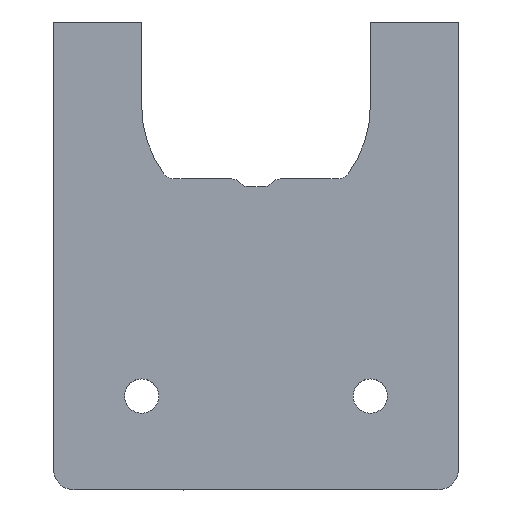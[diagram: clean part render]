
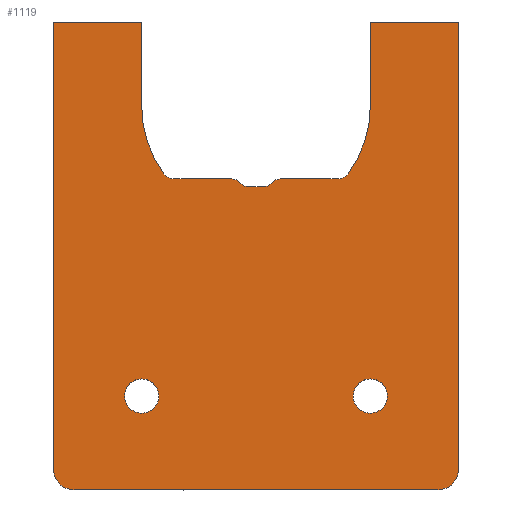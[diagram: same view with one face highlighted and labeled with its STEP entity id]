
A CAD part, top view. The second image highlights one B-rep face of the part: STEP entity #1119.
In plain terms, the highlighted planar face has unit normal (0, 0, 1).
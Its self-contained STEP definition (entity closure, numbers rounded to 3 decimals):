
#53=FACE_BOUND('',#186,.T.);
#54=FACE_BOUND('',#187,.T.);
#71=PLANE('',#1234);
#118=FACE_OUTER_BOUND('',#185,.T.);
#185=EDGE_LOOP('',(#897,#898,#899,#900,#901,#902,#903,#904,#905,#906,#907,
#908,#909,#910,#911,#912,#913,#914,#915,#916));
#186=EDGE_LOOP('',(#917));
#187=EDGE_LOOP('',(#918));
#242=LINE('',#1708,#335);
#249=LINE('',#1723,#342);
#252=LINE('',#1735,#345);
#273=LINE('',#1794,#366);
#278=LINE('',#1807,#371);
#282=LINE('',#1819,#375);
#286=LINE('',#1831,#379);
#290=LINE('',#1843,#383);
#291=LINE('',#1845,#384);
#292=LINE('',#1846,#385);
#335=VECTOR('',#1349,10.);
#342=VECTOR('',#1362,10.);
#345=VECTOR('',#1375,10.);
#366=VECTOR('',#1440,10.);
#371=VECTOR('',#1455,10.);
#375=VECTOR('',#1469,10.);
#379=VECTOR('',#1483,10.);
#383=VECTOR('',#1497,10.);
#384=VECTOR('',#1500,10.);
#385=VECTOR('',#1501,10.);
#408=CIRCLE('',#1169,2.);
#425=CIRCLE('',#1190,2.);
#434=CIRCLE('',#1215,11.);
#435=CIRCLE('',#1217,1.2);
#436=CIRCLE('',#1220,1.);
#437=CIRCLE('',#1222,1.);
#438=CIRCLE('',#1225,1.);
#439=CIRCLE('',#1227,1.);
#440=CIRCLE('',#1230,1.2);
#441=CIRCLE('',#1232,11.);
#442=CIRCLE('',#1235,1.65);
#443=CIRCLE('',#1236,1.65);
#466=VERTEX_POINT('',#1640);
#467=VERTEX_POINT('',#1641);
#498=VERTEX_POINT('',#1707);
#503=VERTEX_POINT('',#1721);
#506=VERTEX_POINT('',#1729);
#507=VERTEX_POINT('',#1733);
#522=VERTEX_POINT('',#1791);
#523=VERTEX_POINT('',#1793);
#524=VERTEX_POINT('',#1797);
#525=VERTEX_POINT('',#1801);
#526=VERTEX_POINT('',#1805);
#527=VERTEX_POINT('',#1809);
#528=VERTEX_POINT('',#1813);
#529=VERTEX_POINT('',#1817);
#530=VERTEX_POINT('',#1821);
#531=VERTEX_POINT('',#1825);
#532=VERTEX_POINT('',#1829);
#533=VERTEX_POINT('',#1833);
#534=VERTEX_POINT('',#1837);
#535=VERTEX_POINT('',#1841);
#536=VERTEX_POINT('',#1847);
#537=VERTEX_POINT('',#1849);
#570=EDGE_CURVE('',#466,#467,#408,.T.);
#603=EDGE_CURVE('',#498,#467,#242,.F.);
#612=EDGE_CURVE('',#466,#503,#249,.T.);
#615=EDGE_CURVE('',#506,#503,#425,.T.);
#618=EDGE_CURVE('',#506,#507,#252,.F.);
#647=EDGE_CURVE('',#522,#523,#273,.T.);
#650=EDGE_CURVE('',#524,#522,#434,.T.);
#652=EDGE_CURVE('',#525,#524,#435,.T.);
#654=EDGE_CURVE('',#525,#526,#278,.T.);
#656=EDGE_CURVE('',#527,#526,#436,.T.);
#658=EDGE_CURVE('',#527,#528,#437,.F.);
#660=EDGE_CURVE('',#529,#528,#282,.T.);
#662=EDGE_CURVE('',#529,#530,#438,.F.);
#664=EDGE_CURVE('',#531,#530,#439,.T.);
#666=EDGE_CURVE('',#531,#532,#286,.T.);
#668=EDGE_CURVE('',#533,#532,#440,.T.);
#670=EDGE_CURVE('',#534,#533,#441,.T.);
#672=EDGE_CURVE('',#534,#535,#290,.T.);
#673=EDGE_CURVE('',#507,#523,#291,.T.);
#674=EDGE_CURVE('',#535,#498,#292,.T.);
#675=EDGE_CURVE('',#536,#536,#442,.T.);
#676=EDGE_CURVE('',#537,#537,#443,.T.);
#897=ORIENTED_EDGE('',*,*,#570,.F.);
#898=ORIENTED_EDGE('',*,*,#612,.T.);
#899=ORIENTED_EDGE('',*,*,#615,.F.);
#900=ORIENTED_EDGE('',*,*,#618,.T.);
#901=ORIENTED_EDGE('',*,*,#673,.T.);
#902=ORIENTED_EDGE('',*,*,#647,.F.);
#903=ORIENTED_EDGE('',*,*,#650,.F.);
#904=ORIENTED_EDGE('',*,*,#652,.F.);
#905=ORIENTED_EDGE('',*,*,#654,.T.);
#906=ORIENTED_EDGE('',*,*,#656,.F.);
#907=ORIENTED_EDGE('',*,*,#658,.T.);
#908=ORIENTED_EDGE('',*,*,#660,.F.);
#909=ORIENTED_EDGE('',*,*,#662,.T.);
#910=ORIENTED_EDGE('',*,*,#664,.F.);
#911=ORIENTED_EDGE('',*,*,#666,.T.);
#912=ORIENTED_EDGE('',*,*,#668,.F.);
#913=ORIENTED_EDGE('',*,*,#670,.F.);
#914=ORIENTED_EDGE('',*,*,#672,.T.);
#915=ORIENTED_EDGE('',*,*,#674,.T.);
#916=ORIENTED_EDGE('',*,*,#603,.T.);
#917=ORIENTED_EDGE('',*,*,#675,.T.);
#918=ORIENTED_EDGE('',*,*,#676,.T.);
#1119=ADVANCED_FACE('',(#118,#53,#54),#71,.T.);
#1169=AXIS2_PLACEMENT_3D('',#1642,#1299,#1300);
#1190=AXIS2_PLACEMENT_3D('',#1730,#1369,#1370);
#1215=AXIS2_PLACEMENT_3D('',#1799,#1445,#1446);
#1217=AXIS2_PLACEMENT_3D('',#1803,#1450,#1451);
#1220=AXIS2_PLACEMENT_3D('',#1811,#1459,#1460);
#1222=AXIS2_PLACEMENT_3D('',#1815,#1464,#1465);
#1225=AXIS2_PLACEMENT_3D('',#1823,#1473,#1474);
#1227=AXIS2_PLACEMENT_3D('',#1827,#1478,#1479);
#1230=AXIS2_PLACEMENT_3D('',#1835,#1487,#1488);
#1232=AXIS2_PLACEMENT_3D('',#1839,#1492,#1493);
#1234=AXIS2_PLACEMENT_3D('',#1844,#1498,#1499);
#1235=AXIS2_PLACEMENT_3D('',#1848,#1502,#1503);
#1236=AXIS2_PLACEMENT_3D('',#1850,#1504,#1505);
#1299=DIRECTION('center_axis',(0.,0.,
-1.));
#1300=DIRECTION('ref_axis',(-0.707,-0.707,0.));
#1349=DIRECTION('',(0.,1.,0.));
#1362=DIRECTION('',(1.,0.,0.));
#1369=DIRECTION('center_axis',(0.,0.,
-1.));
#1370=DIRECTION('ref_axis',(0.707,-0.707,0.));
#1375=DIRECTION('',(0.,-1.,0.));
#1440=DIRECTION('',(0.,1.,0.));
#1445=DIRECTION('center_axis',(0.,0.,
1.));
#1446=DIRECTION('ref_axis',(0.806,-0.592,0.));
#1450=DIRECTION('center_axis',(0.,0.,
1.));
#1451=DIRECTION('ref_axis',(0.,-1.,0.));
#1455=DIRECTION('',(-1.,0.,0.));
#1459=DIRECTION('center_axis',(0.,0.,
-1.));
#1460=DIRECTION('ref_axis',(-0.433,0.901,0.));
#1464=DIRECTION('center_axis',(0.,0.,
1.));
#1465=DIRECTION('ref_axis',(0.968,-0.25,0.));
#1469=DIRECTION('',(1.,0.,0.));
#1473=DIRECTION('center_axis',(0.,0.,
1.));
#1474=DIRECTION('ref_axis',(-0.968,-0.25,0.));
#1478=DIRECTION('center_axis',(0.,0.,
-1.));
#1479=DIRECTION('ref_axis',(0.433,0.901,0.));
#1483=DIRECTION('',(-1.,0.,0.));
#1487=DIRECTION('center_axis',(0.,0.,
1.));
#1488=DIRECTION('ref_axis',(-0.806,-0.592,0.));
#1492=DIRECTION('center_axis',(0.,0.,
1.));
#1493=DIRECTION('ref_axis',(-0.806,0.592,0.));
#1497=DIRECTION('',(0.,1.,0.));
#1498=DIRECTION('center_axis',(0.,0.,
1.));
#1499=DIRECTION('ref_axis',(-1.,0.,0.));
#1500=DIRECTION('',(-1.,0.,0.));
#1501=DIRECTION('',(-1.,0.,0.));
#1502=DIRECTION('center_axis',(0.,0.,
-1.));
#1503=DIRECTION('ref_axis',(-1.,0.,0.));
#1504=DIRECTION('center_axis',(0.,0.,
-1.));
#1505=DIRECTION('ref_axis',(-1.,0.,0.));
#1640=CARTESIAN_POINT('',(-37.5,-56.227,-1.65));
#1641=CARTESIAN_POINT('',(-39.5,-54.227,-1.65));
#1642=CARTESIAN_POINT('Origin',(-37.5,-54.227,-1.65));
#1707=CARTESIAN_POINT('',(-39.5,-11.2,-1.65));
#1708=CARTESIAN_POINT('',(-39.5,-43.971,-1.65));
#1721=CARTESIAN_POINT('',(-2.5,-56.227,-1.65));
#1723=CARTESIAN_POINT('',(-33.5,-56.227,-1.65));
#1729=CARTESIAN_POINT('',(-0.5,-54.227,-1.65));
#1730=CARTESIAN_POINT('Origin',(-2.5,-54.227,-1.65));
#1733=CARTESIAN_POINT('',(-0.5,-11.2,-1.65));
#1735=CARTESIAN_POINT('',(-0.5,-22.457,-1.65));
#1791=CARTESIAN_POINT('',(-9.,-19.3,-1.65));
#1793=CARTESIAN_POINT('',(-9.,-11.2,-1.65));
#1794=CARTESIAN_POINT('',(-9.,-19.3,-1.65));
#1797=CARTESIAN_POINT('',(-11.133,-25.81,-1.65));
#1799=CARTESIAN_POINT('Origin',(-20.,-19.3,-1.65));
#1801=CARTESIAN_POINT('',(-12.101,-26.3,-1.65));
#1803=CARTESIAN_POINT('Origin',(-12.101,-25.1,-1.65));
#1805=CARTESIAN_POINT('',(-17.657,-26.3,-1.65));
#1807=CARTESIAN_POINT('',(-12.101,-26.3,-1.65));
#1809=CARTESIAN_POINT('',(-18.438,-26.675,-1.65));
#1811=CARTESIAN_POINT('Origin',(-17.657,-27.3,-1.65));
#1813=CARTESIAN_POINT('',(-19.218,-27.05,-1.65));
#1815=CARTESIAN_POINT('Origin',(-19.218,-26.05,-1.65));
#1817=CARTESIAN_POINT('',(-20.782,-27.05,-1.65));
#1819=CARTESIAN_POINT('',(-21.75,-27.05,-1.65));
#1821=CARTESIAN_POINT('',(-21.562,-26.675,-1.65));
#1823=CARTESIAN_POINT('Origin',(-20.782,-26.05,-1.65));
#1825=CARTESIAN_POINT('',(-22.343,-26.3,-1.65));
#1827=CARTESIAN_POINT('Origin',(-22.343,-27.3,-1.65));
#1829=CARTESIAN_POINT('',(-27.899,-26.3,-1.65));
#1831=CARTESIAN_POINT('',(-12.101,-26.3,-1.65));
#1833=CARTESIAN_POINT('',(-28.867,-25.81,-1.65));
#1835=CARTESIAN_POINT('Origin',(-27.899,-25.1,-1.65));
#1837=CARTESIAN_POINT('',(-31.,-19.3,-1.65));
#1839=CARTESIAN_POINT('Origin',(-20.,-19.3,-1.65));
#1841=CARTESIAN_POINT('',(-31.,-11.2,-1.65));
#1843=CARTESIAN_POINT('',(-31.,-23.927,-1.65));
#1844=CARTESIAN_POINT('Origin',(-20.,-33.714,-1.65));
#1845=CARTESIAN_POINT('',(-2.5,-11.2,-1.65));
#1846=CARTESIAN_POINT('',(-9.712,-11.2,-1.65));
#1847=CARTESIAN_POINT('',(-7.35,-47.2,-1.65));
#1848=CARTESIAN_POINT('Origin',(-9.,-47.2,-1.65));
#1849=CARTESIAN_POINT('',(-29.35,-47.2,-1.65));
#1850=CARTESIAN_POINT('Origin',(-31.,-47.2,-1.65));
